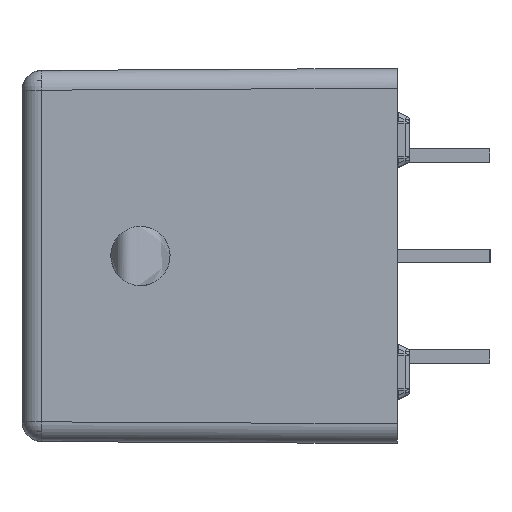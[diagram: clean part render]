
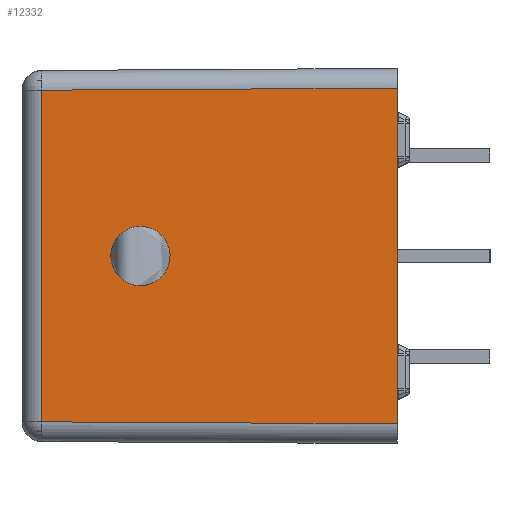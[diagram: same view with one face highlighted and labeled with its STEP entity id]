
A CAD part, left-side view. The second image highlights one B-rep face of the part: STEP entity #12332.
In plain terms, the highlighted planar face has unit normal (-1, 0.006, 0).
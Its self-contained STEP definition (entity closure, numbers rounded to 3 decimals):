
#497 = LINE ( 'NONE', #17617, #26856 ) ;
#570 = CARTESIAN_POINT ( 'NONE',  ( -34., -9.5, -8.5 ) ) ;
#1013 = DIRECTION ( 'NONE',  ( -0.006, -1., -0.006 ) ) ;
#2226 = ORIENTED_EDGE ( 'NONE', *, *, #3383, .T. ) ;
#2611 = VERTEX_POINT ( 'NONE', #570 ) ;
#2628 = VECTOR ( 'NONE', #1013, 1000. ) ;
#3383 = EDGE_CURVE ( 'NONE', #14723, #12251, #7857, .T. ) ;
#3750 = CARTESIAN_POINT ( 'NONE',  ( -34., -9.5, 9.5 ) ) ;
#7308 = DIRECTION ( 'NONE',  ( 0., 0., -1. ) ) ;
#7857 = LINE ( 'NONE', #14903, #14171 ) ;
#7905 = LINE ( 'NONE', #19337, #17148 ) ;
#9040 = EDGE_CURVE ( 'NONE', #14723, #2611, #7905, .T. ) ;
#9808 = ORIENTED_EDGE ( 'NONE', *, *, #16050, .T. ) ;
#10028 = CARTESIAN_POINT ( 'NONE',  ( -34., -9.506, -8.5 ) ) ;
#10252 = ORIENTED_EDGE ( 'NONE', *, *, #9040, .F. ) ;
#10435 = ORIENTED_EDGE ( 'NONE', *, *, #25774, .T. ) ;
#11941 = EDGE_LOOP ( 'NONE', ( #2226, #9808, #10435, #10252 ) ) ;
#12251 = VERTEX_POINT ( 'NONE', #14709 ) ;
#12332 = ADVANCED_FACE ( 'NONE', ( #15153 ), #24363, .T. ) ;
#12905 = DIRECTION ( 'NONE',  ( -0.006, -1., 0. ) ) ;
#14171 = VECTOR ( 'NONE', #24106, 1000. ) ;
#14664 = LINE ( 'NONE', #10028, #2628 ) ;
#14709 = CARTESIAN_POINT ( 'NONE',  ( -33.899, 8.506, 8.399 ) ) ;
#14723 = VERTEX_POINT ( 'NONE', #22759 ) ;
#14903 = CARTESIAN_POINT ( 'NONE',  ( -34., -9.506, 8.5 ) ) ;
#15153 = FACE_OUTER_BOUND ( 'NONE', #11941, .T. ) ;
#16050 = EDGE_CURVE ( 'NONE', #12251, #28701, #497, .T. ) ;
#17148 = VECTOR ( 'NONE', #7308, 1000. ) ;
#17617 = CARTESIAN_POINT ( 'NONE',  ( -33.899, 8.506, 9.5 ) ) ;
#18596 = CARTESIAN_POINT ( 'NONE',  ( -33.899, 8.506, -8.399 ) ) ;
#19337 = CARTESIAN_POINT ( 'NONE',  ( -34., -9.5, 9.5 ) ) ;
#22102 = DIRECTION ( 'NONE',  ( -1., 0.006, 0. ) ) ;
#22759 = CARTESIAN_POINT ( 'NONE',  ( -34., -9.5, 8.5 ) ) ;
#23788 = AXIS2_PLACEMENT_3D ( 'NONE', #3750, #22102, #12905 ) ;
#23959 = DIRECTION ( 'NONE',  ( 0., 0., -1. ) ) ;
#24106 = DIRECTION ( 'NONE',  ( 0.006, 1., -0.006 ) ) ;
#24363 = PLANE ( 'NONE',  #23788 ) ;
#25774 = EDGE_CURVE ( 'NONE', #28701, #2611, #14664, .T. ) ;
#26856 = VECTOR ( 'NONE', #23959, 1000. ) ;
#28701 = VERTEX_POINT ( 'NONE', #18596 ) ;
